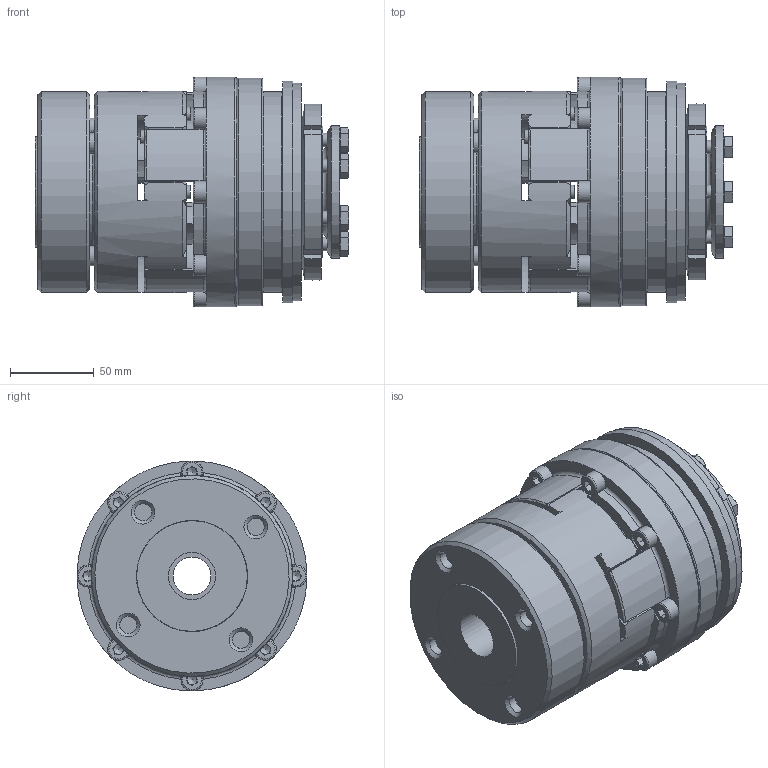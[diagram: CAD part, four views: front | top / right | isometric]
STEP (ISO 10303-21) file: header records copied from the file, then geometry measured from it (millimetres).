
FILE_DESCRIPTION( ( 'Unknown' ), '1' );
FILE_NAME( 'F:/JAKOB-STEP+IGES-Dateien/STEP-Dateien/SKY-ES/SKY-ES 800.stp', 'Unknown', ( 'Unknown' ), ( 'Unknown' ), 'PSStep 10.1', 'Unknown', ' ' );
FILE_SCHEMA( ( 'AUTOMOTIVE_DESIGN { 1 0 10303 214 1 1 1 1 }' ) );
Length unit declared in the file: millimetre
Products named in the file (1): kt100627
Bounding box: 186.8 x 137 x 137 mm (x, y, z)
Volume: 1649002.3 mm3; surface area: 292488.5 mm2
Topology: 1 solids, 19 shells, 799 faces, 2177 edges, 1412 vertices
Faces by surface type: plane 352, cylinder 210, cone 130, torus 91, sphere 16
Full cylindrical faces by diameter (mm): 2.5 x2, 4.2 x3, 6.8 x17, 8 x22, 8.6 x14, 10.2 x8, 11.4 x6, 12 x4, 12.5 x4, 13 x8, 18 x4, 19 x4, 22.5 x1, 28 x1, 30 x1, 37 x1, 46.5 x1, 51 x1, 58 x2, 67 x1, 69.8 x1, 70 x2, 72 x1, 72.4 x1, 73 x1, 78 x1, 79 x1, 80 x1, 80.1 x1, 80.3 x1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
Entity records: 31770 total; most frequent: CARTESIAN_POINT 7204, DIRECTION 3748, ORIENTED_EDGE 3516, EDGE_CURVE 1758, AXIS2_PLACEMENT_3D 1597, VERTEX_POINT 1243, EDGE_LOOP 1153, FACE_OUTER_BOUND 951
